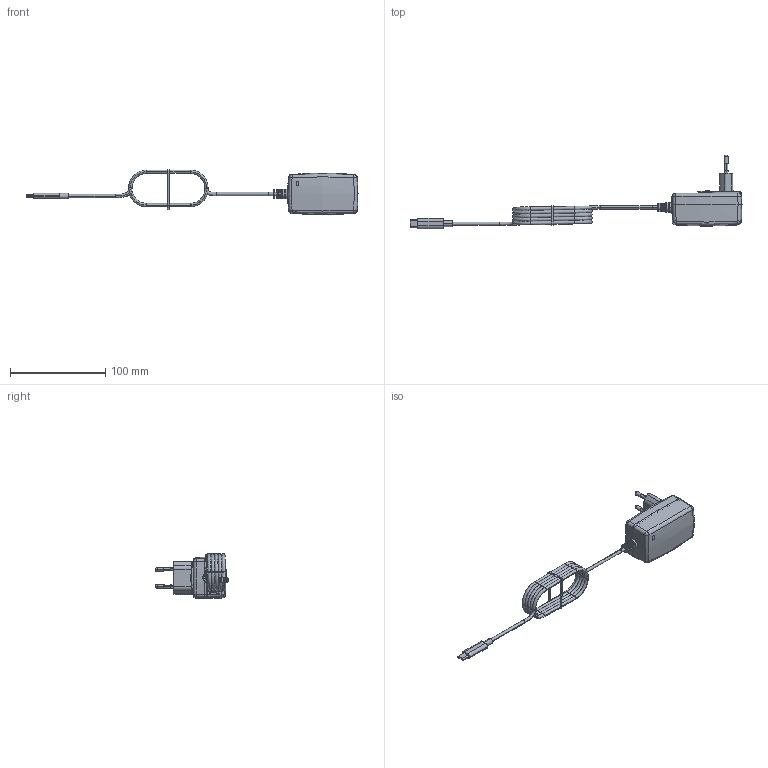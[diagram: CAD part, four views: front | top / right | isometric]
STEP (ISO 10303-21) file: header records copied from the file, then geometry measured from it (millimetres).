
FILE_DESCRIPTION((''),'2;1');
FILE_NAME('GTM96180-WALL-PLUG_ASM','2022-09-15T16:05:47',('rd05'),(''),'CREO PARAMETRIC BY PTC INC, 2018050','CREO PARAMETRIC BY PTC INC, 2018050','');
FILE_SCHEMA(('CONFIG_CONTROL_DESIGN','GEOMETRIC_VALIDATION_PROPERTIES_MIM'));
Products named in the file (19): BTM-CASE; 41052-PCB; NEW-PIN-RIGHT; NEW-PIN-LEFT; COVER; MANIFOLD_SOLID_BREP_3919; SR02; TOP-CASE_8_4; LENS_17_5; ASM0001_ASM_2_ASM_11_ASM; LENS-STANDARD; GTM96180_20190702_ASM; PCB_2; WIRE; TYPEC; PLASTIC; AC-PIN; Q-EU_ASM; GTM96180-WALL-PLUG_ASM
Assembly tree (19 placements, depth 4):
  GTM96180-WALL-PLUG_ASM
    BTM-CASE
    41052-PCB
    NEW-PIN-RIGHT
    NEW-PIN-LEFT
    COVER
    MANIFOLD_SOLID_BREP_3919
    SR02
    GTM96180_20190702_ASM
      ASM0001_ASM_2_ASM_11_ASM
        TOP-CASE_8_4
        LENS_17_5
      LENS-STANDARD
    PCB_2
    WIRE
    TYPEC
    Q-EU_ASM
      PLASTIC
      AC-PIN  x2
Bounding box: 349.28 x 77.51 x 47.3 mm (x, y, z)
Volume: 54735.2 mm3; surface area: 66333 mm2
Topology: 17 solids, 18 shells, 2241 faces, 5619 edges, 3463 vertices
Faces by surface type: plane 1062, cylinder 578, cone 209, bspline 164, torus 143, sphere 71, extrusion 14
Entity records: 85867 total; most frequent: CARTESIAN_POINT 27677, ORIENTED_EDGE 11118, DIRECTION 10773, EDGE_CURVE 5567, AXIS2_PLACEMENT_3D 3772, VERTEX_POINT 3450, VECTOR 3229, LINE 3215
